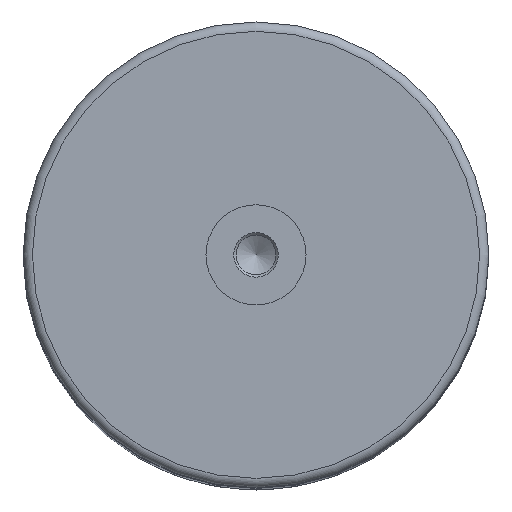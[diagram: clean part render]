
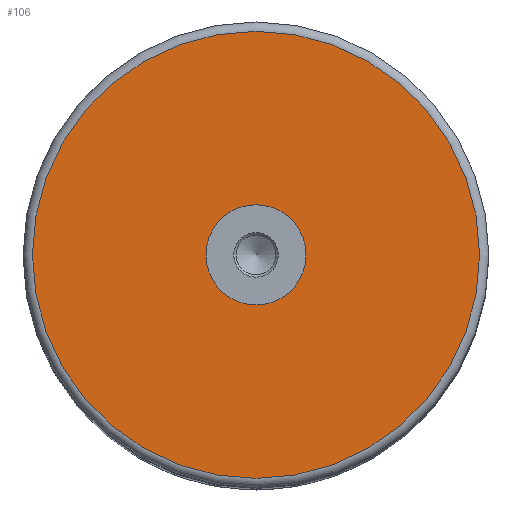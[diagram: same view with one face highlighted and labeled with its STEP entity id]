
A CAD part, top view. The second image highlights one B-rep face of the part: STEP entity #106.
In plain terms, the highlighted planar face has unit normal (0, 0, 1).
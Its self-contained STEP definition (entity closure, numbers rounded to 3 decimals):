
#106=ADVANCED_FACE('',(#188,#189),#190,.T.);
#188=FACE_BOUND('',#289,.T.);
#189=FACE_OUTER_BOUND('',#290,.T.);
#190=PLANE('',#291);
#289=EDGE_LOOP('',(#392));
#290=EDGE_LOOP('',(#393));
#291=AXIS2_PLACEMENT_3D('',#394,#395,#396);
#392=ORIENTED_EDGE('',*,*,#519,.F.);
#393=ORIENTED_EDGE('',*,*,#520,.T.);
#394=CARTESIAN_POINT('',(0.0,0.0,140.0));
#395=DIRECTION('',(0.0,0.0,1.0));
#396=DIRECTION('',(1.0,0.0,0.0));
#519=EDGE_CURVE('',#572,#572,#573,.T.);
#520=EDGE_CURVE('',#574,#574,#575,.T.);
#572=VERTEX_POINT('',#642);
#573=CIRCLE('',#643,10.75);
#574=VERTEX_POINT('',#644);
#575=CIRCLE('',#645,48.0);
#642=CARTESIAN_POINT('',(10.75,0.0,140.0));
#643=AXIS2_PLACEMENT_3D('',#951,#952,#953);
#644=CARTESIAN_POINT('',(48.0,0.0,140.0));
#645=AXIS2_PLACEMENT_3D('',#954,#955,#956);
#951=CARTESIAN_POINT('',(0.0,0.0,140.0));
#952=DIRECTION('',(0.0,0.0,1.0));
#953=DIRECTION('',(1.0,0.0,0.0));
#954=CARTESIAN_POINT('',(0.0,0.0,140.0));
#955=DIRECTION('',(0.0,0.0,1.0));
#956=DIRECTION('',(1.0,0.0,0.0));
